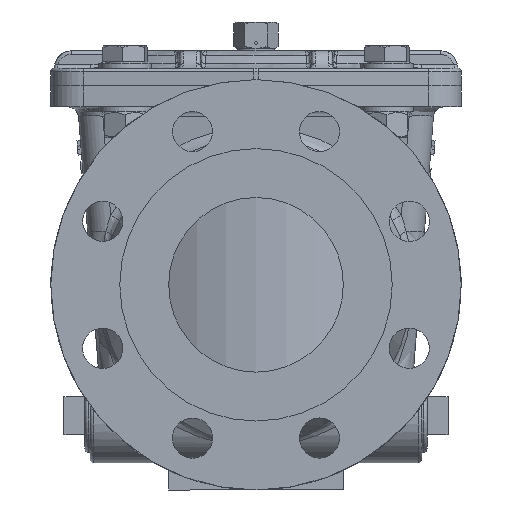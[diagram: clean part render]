
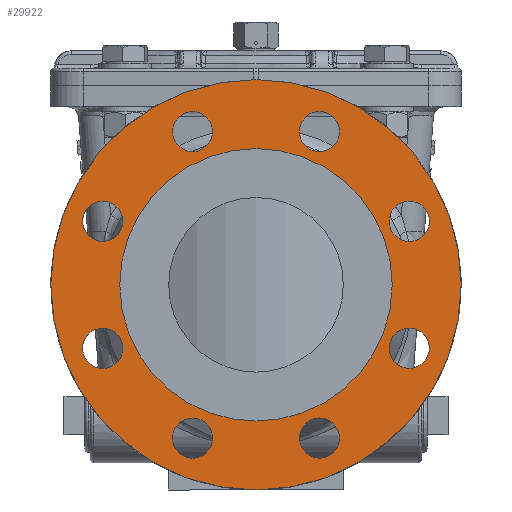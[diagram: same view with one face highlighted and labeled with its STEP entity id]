
A CAD part, front view. The second image highlights one B-rep face of the part: STEP entity #29922.
In plain terms, the highlighted planar face has unit normal (0, -1, 0) as drawn and (-1, 0, 0) by its records, which use the part's own axes.
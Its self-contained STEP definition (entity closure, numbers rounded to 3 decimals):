
#875=FACE_BOUND('',#5866,.T.);
#876=FACE_BOUND('',#5867,.T.);
#877=FACE_BOUND('',#5868,.T.);
#878=FACE_BOUND('',#5869,.T.);
#879=FACE_BOUND('',#5870,.T.);
#880=FACE_BOUND('',#5871,.T.);
#881=FACE_BOUND('',#5872,.T.);
#882=FACE_BOUND('',#5873,.T.);
#883=FACE_BOUND('',#5874,.T.);
#1475=PLANE('',#32394);
#2351=CIRCLE('',#32192,11.5);
#2352=CIRCLE('',#32194,11.5);
#2353=CIRCLE('',#32196,11.5);
#2354=CIRCLE('',#32198,11.5);
#2355=CIRCLE('',#32200,11.5);
#2356=CIRCLE('',#32202,11.5);
#2357=CIRCLE('',#32204,11.5);
#2358=CIRCLE('',#32206,11.5);
#2442=CIRCLE('',#32393,78.);
#2443=CIRCLE('',#32395,117.5);
#3973=FACE_OUTER_BOUND('',#5865,.T.);
#5865=EDGE_LOOP('',(#25064));
#5866=EDGE_LOOP('',(#25065));
#5867=EDGE_LOOP('',(#25066));
#5868=EDGE_LOOP('',(#25067));
#5869=EDGE_LOOP('',(#25068));
#5870=EDGE_LOOP('',(#25069));
#5871=EDGE_LOOP('',(#25070));
#5872=EDGE_LOOP('',(#25071));
#5873=EDGE_LOOP('',(#25072));
#5874=EDGE_LOOP('',(#25073));
#14203=VERTEX_POINT('',#50788);
#14204=VERTEX_POINT('',#50791);
#14205=VERTEX_POINT('',#50794);
#14206=VERTEX_POINT('',#50797);
#14207=VERTEX_POINT('',#50800);
#14208=VERTEX_POINT('',#50803);
#14209=VERTEX_POINT('',#50806);
#14210=VERTEX_POINT('',#50809);
#14284=VERTEX_POINT('',#53388);
#14285=VERTEX_POINT('',#53391);
#17866=EDGE_CURVE('',#14203,#14203,#2351,.T.);
#17867=EDGE_CURVE('',#14204,#14204,#2352,.T.);
#17868=EDGE_CURVE('',#14205,#14205,#2353,.T.);
#17869=EDGE_CURVE('',#14206,#14206,#2354,.T.);
#17870=EDGE_CURVE('',#14207,#14207,#2355,.T.);
#17871=EDGE_CURVE('',#14208,#14208,#2356,.T.);
#17872=EDGE_CURVE('',#14209,#14209,#2357,.T.);
#17873=EDGE_CURVE('',#14210,#14210,#2358,.T.);
#18045=EDGE_CURVE('',#14284,#14284,#2442,.T.);
#18046=EDGE_CURVE('',#14285,#14285,#2443,.T.);
#25064=ORIENTED_EDGE('',*,*,#18046,.F.);
#25065=ORIENTED_EDGE('',*,*,#17866,.T.);
#25066=ORIENTED_EDGE('',*,*,#17867,.T.);
#25067=ORIENTED_EDGE('',*,*,#17868,.T.);
#25068=ORIENTED_EDGE('',*,*,#17869,.T.);
#25069=ORIENTED_EDGE('',*,*,#17870,.T.);
#25070=ORIENTED_EDGE('',*,*,#17871,.T.);
#25071=ORIENTED_EDGE('',*,*,#17872,.T.);
#25072=ORIENTED_EDGE('',*,*,#17873,.T.);
#25073=ORIENTED_EDGE('',*,*,#18045,.T.);
#29922=ADVANCED_FACE('',(#3973,#875,#876,#877,#878,#879,#880,#881,#882,
#883),#1475,.T.);
#32192=AXIS2_PLACEMENT_3D('',#50789,#37263,#37264);
#32194=AXIS2_PLACEMENT_3D('',#50792,#37267,#37268);
#32196=AXIS2_PLACEMENT_3D('',#50795,#37271,#37272);
#32198=AXIS2_PLACEMENT_3D('',#50798,#37275,#37276);
#32200=AXIS2_PLACEMENT_3D('',#50801,#37279,#37280);
#32202=AXIS2_PLACEMENT_3D('',#50804,#37283,#37284);
#32204=AXIS2_PLACEMENT_3D('',#50807,#37287,#37288);
#32206=AXIS2_PLACEMENT_3D('',#50810,#37291,#37292);
#32393=AXIS2_PLACEMENT_3D('',#53389,#37699,#37700);
#32394=AXIS2_PLACEMENT_3D('',#53390,#37701,#37702);
#32395=AXIS2_PLACEMENT_3D('',#53392,#37703,#37704);
#37263=DIRECTION('center_axis',(1.,0.,0.));
#37264=DIRECTION('ref_axis',(0.,0.707,0.707));
#37267=DIRECTION('center_axis',(1.,0.,0.));
#37268=DIRECTION('ref_axis',(0.,1.,0.));
#37271=DIRECTION('center_axis',(1.,0.,0.));
#37272=DIRECTION('ref_axis',(0.,0.707,-0.707));
#37275=DIRECTION('center_axis',(1.,0.,0.));
#37276=DIRECTION('ref_axis',(0.,0.,
-1.));
#37279=DIRECTION('center_axis',(1.,0.,0.));
#37280=DIRECTION('ref_axis',(0.,-0.707,-0.707));
#37283=DIRECTION('center_axis',(1.,0.,0.));
#37284=DIRECTION('ref_axis',(0.,-1.,0.));
#37287=DIRECTION('center_axis',(1.,0.,0.));
#37288=DIRECTION('ref_axis',(0.,-0.707,0.707));
#37291=DIRECTION('center_axis',(1.,0.,0.));
#37292=DIRECTION('ref_axis',(0.,0.,1.));
#37699=DIRECTION('center_axis',(1.,0.,0.));
#37700=DIRECTION('ref_axis',(0.,1.,0.));
#37701=DIRECTION('center_axis',(-1.,0.,0.));
#37702=DIRECTION('ref_axis',(0.,0.,1.));
#37703=DIRECTION('center_axis',(1.,0.,0.));
#37704=DIRECTION('ref_axis',(0.,1.,0.));
#50788=CARTESIAN_POINT('',(-147.,-79.637,-28.223));
#50789=CARTESIAN_POINT('Origin',(-147.,-87.769,-36.355));
#50791=CARTESIAN_POINT('',(-147.,-76.269,36.355));
#50792=CARTESIAN_POINT('Origin',(-147.,-87.769,36.355));
#50794=CARTESIAN_POINT('',(-147.,-28.223,79.637));
#50795=CARTESIAN_POINT('Origin',(-147.,-36.355,87.769));
#50797=CARTESIAN_POINT('',(-147.,36.355,76.269));
#50798=CARTESIAN_POINT('Origin',(-147.,36.355,87.769));
#50800=CARTESIAN_POINT('',(-147.,79.637,28.223));
#50801=CARTESIAN_POINT('Origin',(-147.,87.769,36.355));
#50803=CARTESIAN_POINT('',(-147.,76.269,-36.355));
#50804=CARTESIAN_POINT('Origin',(-147.,87.769,-36.355));
#50806=CARTESIAN_POINT('',(-147.,28.223,-79.637));
#50807=CARTESIAN_POINT('Origin',(-147.,36.355,-87.769));
#50809=CARTESIAN_POINT('',(-147.,-36.355,-76.269));
#50810=CARTESIAN_POINT('Origin',(-147.,-36.355,-87.769));
#53388=CARTESIAN_POINT('',(-147.,78.,0.));
#53389=CARTESIAN_POINT('Origin',(-147.,0.,0.));
#53390=CARTESIAN_POINT('Origin',(-147.,97.75,0.));
#53391=CARTESIAN_POINT('',(-147.,117.5,0.));
#53392=CARTESIAN_POINT('Origin',(-147.,0.,0.));
